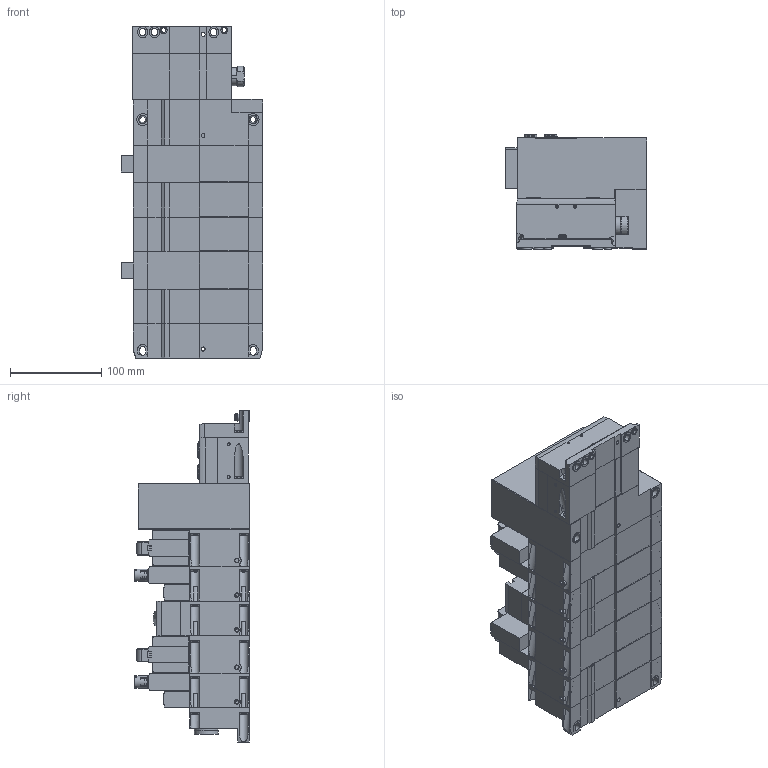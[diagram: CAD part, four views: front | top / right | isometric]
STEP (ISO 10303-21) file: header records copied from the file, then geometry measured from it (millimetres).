
FILE_DESCRIPTION( ( 'STEP AP214' ), '1' );
FILE_NAME( 'p:/temp/worker_1072/temp/exporttempdir_4420_572_rE1tW/format_0/Configuration02_8073100_51E-F33GCQP-RC.stp', '2020-07-23T15:24:16', ( 'License CC BY-ND 4.0' ), ( 'CADENAS' ), ' ', 'PARTsolutions', ' ' );
FILE_SCHEMA( ( 'AUTOMOTIVE_DESIGN { 1 0 10303 214 1 1 1 1 }' ) );
Length unit declared in the file: millimetre
Products named in the file (17): 8073100 51E-F33GCQP-RC 46P-B-NSAB-PSPMNGWZQZAUSWYLYQTLPSPMNGWZQZA-JLJL; HI_8068240 VABA-S6-1-X2-F1-CB---(EPL); HI_8068610 VABV-S6-1Q-G38-CB-T5---(VKPL_0); _8067407 VABF-S6-1-P5A4S1YE-G12-1T5-PA---(high); _174308 B-M5-B---(VCB); _8067932 VABV-S4-2HS-G18-CB-2T2---(VKPL_0); HI_8033450 VSVA-B-B52-ZTR-A2-1T1L---(VT462); _4105147 VAMC-B-S6-CTR---(vtsa_kappe); HI_539213 VABB-S4-2-WT---(VT465); HI_8104044 VABF-S6-1-P8A7-G12-CB1---(VT46); HI_8090343 VABF-S6-1-P8A7-G12-CB-DECKEL---(VT46); HI_539234 VABE-S6-1R-G12---(PL); _3571 B-1/2---(VCBE); HI_550212 CPX-M-EPL-EV---(EPL_51E); HI_550208 CPX-M-GE-EV-S-7/8-5POL---(EV); HI_548755 CPX-FB33---(EA); HI_548757 CPX-AK-P---(g_2_1)
Assembly tree (25 placements, depth 2):
  8073100 51E-F33GCQP-RC 46P-B-NSAB-PSPMNGWZQZAUSWYLYQTLPSPMNGWZQZA-JLJL
    HI_8068240 VABA-S6-1-X2-F1-CB---(EPL)
    HI_8068610 VABV-S6-1Q-G38-CB-T5---(VKPL_0)  x2
    _8067407 VABF-S6-1-P5A4S1YE-G12-1T5-PA---(high)  x2
    _174308 B-M5-B---(VCB)  x2
    _8067932 VABV-S4-2HS-G18-CB-2T2---(VKPL_0)  x2
    HI_8033450 VSVA-B-B52-ZTR-A2-1T1L---(VT462)  x2
    _4105147 VAMC-B-S6-CTR---(vtsa_kappe)  x4
    HI_539213 VABB-S4-2-WT---(VT465)  x2
    HI_8104044 VABF-S6-1-P8A7-G12-CB1---(VT46)
    HI_8090343 VABF-S6-1-P8A7-G12-CB-DECKEL---(VT46)
    HI_539234 VABE-S6-1R-G12---(PL)
    _3571 B-1/2---(VCBE)
    HI_550212 CPX-M-EPL-EV---(EPL_51E)
    HI_550208 CPX-M-GE-EV-S-7/8-5POL---(EV)
    HI_548755 CPX-FB33---(EA)
    HI_548757 CPX-AK-P---(g_2_1)
Bounding box: 154.9 x 126.04 x 363.8 mm (x, y, z)
Volume: 3765572.6 mm3; surface area: 554727.1 mm2
Topology: 25 solids, 25 shells, 3018 faces, 7658 edges, 4981 vertices
Faces by surface type: plane 1646, cylinder 1016, cone 290, torus 53, bspline 10, sphere 3
Full cylindrical faces by diameter (mm): 1.1 x12, 2 x5, 2.3 x2, 2.459 x4, 2.8 x2, 3 x4, 3.2 x4, 3.242 x14, 3.3 x14, 4 x11, 4.134 x41, 4.3 x5, 4.5 x1, 5 x42, 5.2 x16, 5.5 x12, 5.6 x2, 5.8 x4, 6 x10, 6.4 x3, 6.5 x8, 6.6 x4, 7.2 x4, 7.5 x4, 7.6 x4, 8 x12, 8.2 x2, 8.3 x2, 8.5 x8, 8.566 x8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
Entity records: 72886 total; most frequent: CARTESIAN_POINT 10870, DIRECTION 9877, ORIENTED_EDGE 8696, EDGE_CURVE 4348, AXIS2_PLACEMENT_3D 3676, VERTEX_POINT 3111, EDGE_LOOP 2729, LINE 2525
